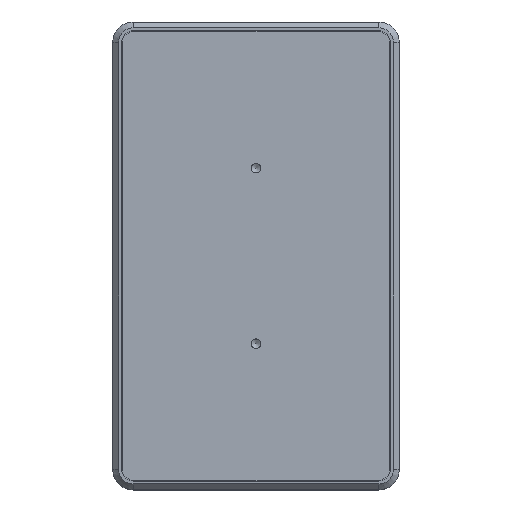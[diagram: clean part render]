
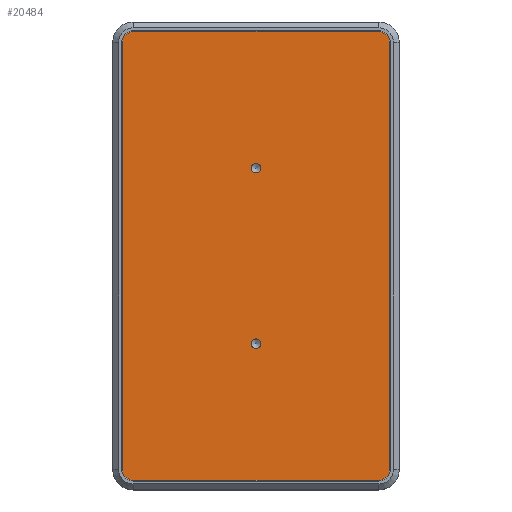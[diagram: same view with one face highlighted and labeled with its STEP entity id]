
A CAD part, top view. The second image highlights one B-rep face of the part: STEP entity #20484.
In plain terms, the highlighted planar face has unit normal (0, 0, 1).
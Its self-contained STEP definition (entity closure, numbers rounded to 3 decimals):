
#533=FACE_BOUND('',#3275,.T.);
#534=FACE_BOUND('',#3276,.T.);
#995=PLANE('',#22211);
#2075=FACE_OUTER_BOUND('',#3274,.T.);
#3274=EDGE_LOOP('',(#17833,#17834,#17835,#17836,#17837,#17838,#17839,#17840));
#3275=EDGE_LOOP('',(#17841));
#3276=EDGE_LOOP('',(#17842));
#3535=CIRCLE('',#20955,4.);
#3536=CIRCLE('',#20958,4.);
#3537=CIRCLE('',#20961,4.);
#3538=CIRCLE('',#20964,4.);
#3539=CIRCLE('',#20966,1.621);
#3541=CIRCLE('',#20970,1.621);
#5012=LINE('',#28200,#6420);
#5016=LINE('',#28209,#6424);
#5019=LINE('',#28217,#6427);
#5022=LINE('',#28225,#6430);
#6420=VECTOR('',#23340,10.);
#6424=VECTOR('',#23350,10.);
#6427=VECTOR('',#23359,10.);
#6430=VECTOR('',#23368,10.);
#7882=VERTEX_POINT('',#28198);
#7883=VERTEX_POINT('',#28199);
#7884=VERTEX_POINT('',#28204);
#7885=VERTEX_POINT('',#28208);
#7886=VERTEX_POINT('',#28212);
#7887=VERTEX_POINT('',#28216);
#7888=VERTEX_POINT('',#28220);
#7889=VERTEX_POINT('',#28224);
#7890=VERTEX_POINT('',#28230);
#7893=VERTEX_POINT('',#28239);
#9920=EDGE_CURVE('',#7882,#7883,#5012,.T.);
#9923=EDGE_CURVE('',#7884,#7882,#3535,.T.);
#9925=EDGE_CURVE('',#7885,#7884,#5016,.T.);
#9927=EDGE_CURVE('',#7886,#7885,#3536,.T.);
#9929=EDGE_CURVE('',#7887,#7886,#5019,.T.);
#9931=EDGE_CURVE('',#7888,#7887,#3537,.T.);
#9933=EDGE_CURVE('',#7889,#7888,#5022,.T.);
#9935=EDGE_CURVE('',#7883,#7889,#3538,.T.);
#9936=EDGE_CURVE('',#7890,#7890,#3539,.T.);
#9940=EDGE_CURVE('',#7893,#7893,#3541,.T.);
#17833=ORIENTED_EDGE('',*,*,#9935,.F.);
#17834=ORIENTED_EDGE('',*,*,#9920,.F.);
#17835=ORIENTED_EDGE('',*,*,#9923,.F.);
#17836=ORIENTED_EDGE('',*,*,#9925,.F.);
#17837=ORIENTED_EDGE('',*,*,#9927,.F.);
#17838=ORIENTED_EDGE('',*,*,#9929,.F.);
#17839=ORIENTED_EDGE('',*,*,#9931,.F.);
#17840=ORIENTED_EDGE('',*,*,#9933,.F.);
#17841=ORIENTED_EDGE('',*,*,#9940,.T.);
#17842=ORIENTED_EDGE('',*,*,#9936,.T.);
#20484=ADVANCED_FACE('',(#2075,#533,#534),#995,.F.);
#20955=AXIS2_PLACEMENT_3D('',#28205,#23345,#23346);
#20958=AXIS2_PLACEMENT_3D('',#28213,#23354,#23355);
#20961=AXIS2_PLACEMENT_3D('',#28221,#23363,#23364);
#20964=AXIS2_PLACEMENT_3D('',#28228,#23372,#23373);
#20966=AXIS2_PLACEMENT_3D('',#28231,#23376,#23377);
#20970=AXIS2_PLACEMENT_3D('',#28240,#23386,#23387);
#22211=AXIS2_PLACEMENT_3D('',#61362,#26976,#26977);
#23340=DIRECTION('',(-1.,0.,0.));
#23345=DIRECTION('center_axis',(0.,0.,
-1.));
#23346=DIRECTION('ref_axis',(0.,-1.,0.));
#23350=DIRECTION('',(0.,-1.,0.));
#23354=DIRECTION('center_axis',(0.,0.,
-1.));
#23355=DIRECTION('ref_axis',(1.,0.,0.));
#23359=DIRECTION('',(1.,0.,0.));
#23363=DIRECTION('center_axis',(0.,0.,
-1.));
#23364=DIRECTION('ref_axis',(0.,1.,0.));
#23368=DIRECTION('',(0.,1.,0.));
#23372=DIRECTION('center_axis',(0.,0.,
-1.));
#23373=DIRECTION('ref_axis',(-1.,0.,0.));
#23376=DIRECTION('center_axis',(0.,0.,
-1.));
#23377=DIRECTION('ref_axis',(1.,0.,0.));
#23386=DIRECTION('center_axis',(0.,0.,
-1.));
#23387=DIRECTION('ref_axis',(1.,0.,0.));
#26976=DIRECTION('center_axis',(0.,0.,
-1.));
#26977=DIRECTION('ref_axis',(-1.,0.,0.));
#28198=CARTESIAN_POINT('',(91.074,4.14,33.));
#28199=CARTESIAN_POINT('',(7.574,4.14,33.));
#28200=CARTESIAN_POINT('',(7.574,4.14,33.));
#28204=CARTESIAN_POINT('',(95.074,8.14,33.));
#28205=CARTESIAN_POINT('Origin',(91.074,8.14,33.));
#28208=CARTESIAN_POINT('',(95.074,153.64,33.));
#28209=CARTESIAN_POINT('',(95.074,8.14,33.));
#28212=CARTESIAN_POINT('',(91.074,157.64,33.));
#28213=CARTESIAN_POINT('Origin',(91.074,153.64,33.));
#28216=CARTESIAN_POINT('',(7.574,157.64,33.));
#28217=CARTESIAN_POINT('',(91.074,157.64,33.));
#28220=CARTESIAN_POINT('',(3.574,153.64,33.));
#28221=CARTESIAN_POINT('Origin',(7.574,153.64,33.));
#28224=CARTESIAN_POINT('',(3.574,8.14,33.));
#28225=CARTESIAN_POINT('',(3.574,153.64,33.));
#28228=CARTESIAN_POINT('Origin',(7.574,8.14,33.));
#28230=CARTESIAN_POINT('',(47.703,50.89,33.));
#28231=CARTESIAN_POINT('Origin',(49.324,50.89,33.));
#28239=CARTESIAN_POINT('',(47.703,110.89,33.));
#28240=CARTESIAN_POINT('Origin',(49.324,110.89,33.));
#61362=CARTESIAN_POINT('Origin',(9.324,80.89,33.));
